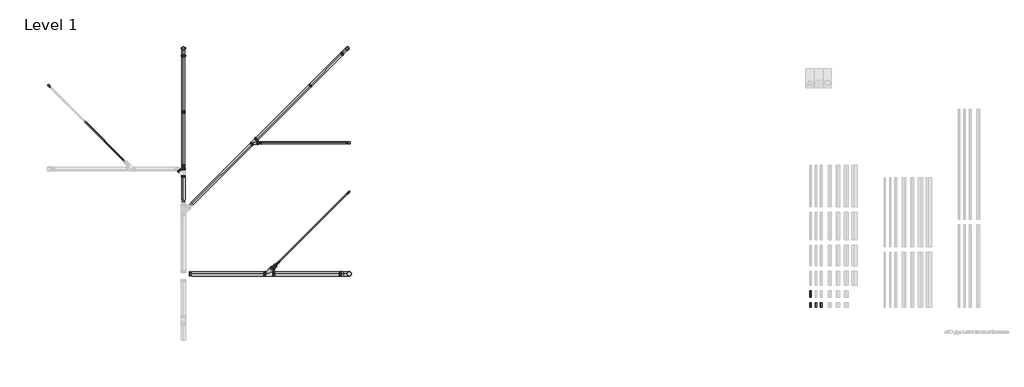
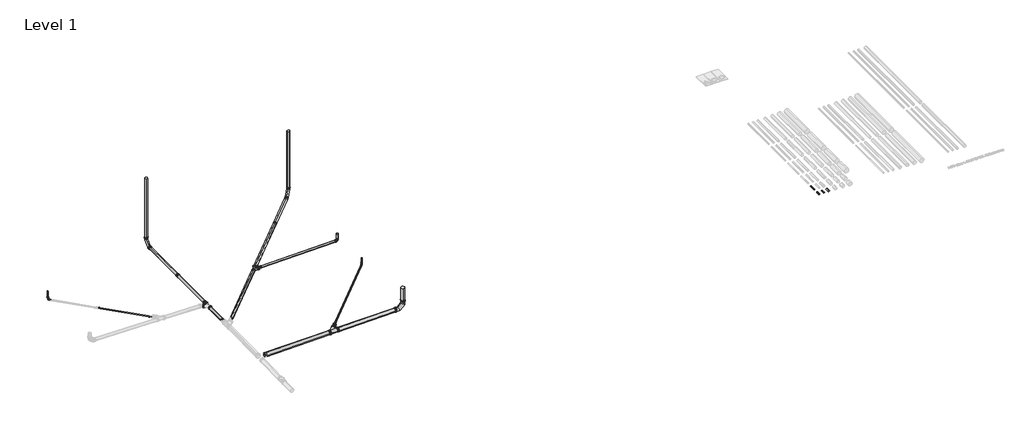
# One storey, part 5 of 13: 54 pipe fittings, 21 pipe segments.
"""IFC4 building model written with IfcOpenShell, lengths in millimetres."""

from ifc_helpers import new_model, si_unit, point, frame, frame_2d, origin, place, context, project, spatial, circle_curve, trimmed, segment, composite_curve, outline, extrude, transform, mapped, element, save
from components import pipe_fitting_1_4404_a287a520, pipe_fitting_1_4404_a61b8bae, pipe_fitting_1_4404_3284edd7, pipe_fitting_1_4404_78f4e6b2, pipe_fitting_1_4404_e9e6778f, pipe_fitting_1_4404_7859ca27, pipe_fitting_1_4404_a0c9185b, pipe_fitting_1_4404_cceba5ae, pipe_fitting_1_4404_6c9c62c8, pipe_fitting_1_4404_ad30eb08, std_4d603621, std_1d744fe9, std_53fa1e38, std_d175c92f, std_a04eb2e2, std_nested_8c5ec0dd, std_nested_c2194d23, std_nested_1dc62a2a, std_nested_ad07eb86, std_nested_c800a1cb, std_nested_79b518f9, std_nested_072c2150, std_nested_70f44cd0, std_nested_4988e8d9, std_nested_b4e13f09, std_nested_af07ce19, std_nested_5f98b4e1, std_nested_4c693b00, std_nested_44e87db9, std_nested_c85e2763, std_nested_0eafc151, std_nested_4f3602ba, std_nested_ec74517b, std_nested_c6c84c1b, std_nested_8d97be52

model = new_model("IFC4")

# Units and contexts
model_context = context("Model", 3, world=origin())
ifc_project = project(units=[si_unit("LENGTHUNIT", "METRE", prefix="MILLI")], contexts=[model_context])

# Site, building, storey
site = spatial("IfcSite", under=ifc_project)
building = spatial("IfcBuilding", under=site)
storey = spatial("IfcBuildingStorey", under=building, Name="Level 1", Elevation=0.0)

# Pipe fittings
placement = place(None, origin())
pipe_fitting_1_4404_shape = pipe_fitting_1_4404_a287a520(model_context)
element("IfcPipeFitting", 1, ObjectType="PIF_ST_UN_ACO pipe double bend_ACO : 1.4404", at=placement, inside=storey, context=model_context, shape_type="MappedRepresentation", body=[
    mapped(pipe_fitting_1_4404_shape, transform((-29368.6615244, 8045.8349965, 136.9828864), x_axis=(0.0, 0.0, -1.0), y_axis=(0.7071067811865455, -0.7071067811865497, 0.0), z_axis=(-0.7071067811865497, -0.7071067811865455, 0.0))),
])
pipe_fitting_1_4404_2_shape = pipe_fitting_1_4404_a61b8bae(model_context)
element("IfcPipeFitting", 2, ObjectType="PIF_ST_UN_ACO pipe double bend_ACO : 1.4404", at=placement, inside=storey, context=model_context, shape_type="MappedRepresentation", body=[
    mapped(pipe_fitting_1_4404_2_shape, transform((-18439.7731339, 4176.3172962, 197.0535129), x_axis=(0.0, 0.0, -1.0), y_axis=(-0.7071067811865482, -0.7071067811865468, 0.0), z_axis=(-0.7071067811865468, 0.7071067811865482, 0.0))),
])
pipe_fitting_1_4404_3_shape = pipe_fitting_1_4404_3284edd7(model_context)
element("IfcPipeFitting", 3, ObjectType="PIF_ST_UN_ACO pipe long bend_ACO : 1.4404", at=placement, inside=storey, context=model_context, shape_type="MappedRepresentation", body=[
    mapped(pipe_fitting_1_4404_3_shape, transform((-18505.2897132, 9386.7440181, 204.2019308), x_axis=(0.0, 0.0, -1.0), y_axis=(-0.7071067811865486, -0.7071067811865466, 0.0), z_axis=(-0.7071067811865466, 0.7071067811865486, 0.0))),
])
pipe_fitting_1_4404_4_shape = pipe_fitting_1_4404_78f4e6b2(model_context)
element("IfcPipeFitting", 4, ObjectType="PIF_ST_UN_ACO pipe long bend_ACO : 1.4404", at=placement, inside=storey, context=model_context, shape_type="MappedRepresentation", body=[
    mapped(pipe_fitting_1_4404_4_shape, transform((-24468.5517039, 9386.7041561, 70.403708), x_axis=(0.0, 0.0, -1.0), y_axis=(0.0, -1.0, 0.0), z_axis=(-1.0, 0.0, 0.0))),
])
pipe_fitting_1_4404_5_shape = pipe_fitting_1_4404_e9e6778f(model_context)
element("IfcPipeFitting", 5, ObjectType="PIF_ST_UN_ACO pipe long bend_ACO : 1.4404", at=placement, inside=storey, context=model_context, shape_type="MappedRepresentation", body=[
    mapped(pipe_fitting_1_4404_5_shape, transform((-18439.5447073, 1191.2457969, 126.5032296), x_axis=(0.9998875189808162, 0.0, 0.014998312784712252), y_axis=(-0.014998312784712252, 0.0, 0.9998875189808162), z_axis=(0.0, -1.0, 0.0))),
])
pipe_fitting_1_4404_6_shape = pipe_fitting_1_4404_7859ca27(model_context)
element("IfcPipeFitting", 6, ObjectType="PIF_ST_UN_ACO pipe multibranch_ACO : 1.4404", at=placement, inside=storey, context=model_context, shape_type="MappedRepresentation", body=[
    mapped(pipe_fitting_1_4404_6_shape, transform((-21939.6710013, 5952.3627299, 131.3477019), x_axis=(0.7070272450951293, 0.7070272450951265, 0.01499831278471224), y_axis=(0.7070272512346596, -0.7071590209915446, 0.0062116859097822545), z_axis=(0.014998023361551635, 0.006212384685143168, -0.9998682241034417))),
])
pipe_fitting_1_4404_7_shape = pipe_fitting_1_4404_a0c9185b(model_context)
element("IfcPipeFitting", 7, ObjectType="PIF_ST_UN_ACO pipe multibranch_ACO : 1.4404", at=placement, inside=storey, context=model_context, shape_type="MappedRepresentation", body=[
    mapped(pipe_fitting_1_4404_7_shape, transform((-21424.38778, 1191.2457969, 81.7305835), x_axis=(0.9998875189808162, 0.0, 0.014998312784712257), y_axis=(-9.317528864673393e-05, 0.999980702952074, 0.006211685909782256), z_axis=(-0.014998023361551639, -0.006212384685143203, 0.9998682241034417))),
])
pipe_fitting_1_4404_8_shape = pipe_fitting_1_4404_cceba5ae(model_context)
element("IfcPipeFitting", 8, ObjectType="PIF_ST_UN_ACO pipe multireducer_ACO : 1.4404", at=placement, inside=storey, context=model_context, shape_type="MappedRepresentation", body=[
    mapped(pipe_fitting_1_4404_8_shape, transform((-24468.5517039, 5032.9655847, 69.8540739), x_axis=(0.0, 0.9999613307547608, 0.008794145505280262), y_axis=(-0.014997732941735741, 0.008793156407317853, -0.9998488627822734), z_axis=(-0.9998875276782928, -0.00013189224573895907, 0.014997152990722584))),
])
pipe_fitting_1_4404_9_shape = pipe_fitting_1_4404_6c9c62c8(model_context)
element("IfcPipeFitting", 9, ObjectType="PIF_ST_UN_ACO pipe repair coupling_ACO : 1.4404", at=placement, inside=storey, context=model_context, shape_type="MappedRepresentation", body=[
    mapped(pipe_fitting_1_4404_9_shape, transform((-24468.5517039, 7070.7041561, 70.403708), x_axis=(0.0, -1.0, 0.0), y_axis=(1.0, 0.0, 0.0), z_axis=(0.0, 0.0, 1.0))),
])
pipe_fitting_1_4404_10_shape = pipe_fitting_1_4404_ad30eb08(model_context)
element("IfcPipeFitting", 10, ObjectType="PIF_ST_UN_ACO pipe bend_ACO : 1.4404", at=placement, inside=storey, context=model_context, shape_type="MappedRepresentation", body=[
    mapped(pipe_fitting_1_4404_10_shape, transform((-18439.5447073, 5952.2695442, 198.8509942), x_axis=(0.0, 0.0, -1.0), y_axis=(-1.0, 0.0, 0.0), z_axis=(0.0, 1.0, 0.0))),
])
std_shape = std_4d603621(model_context)
element("IfcPipeFitting", 11, ObjectType="ZZZ_do not use_PIF_ST_UN_ACO pipe increaser coupling_ACO : std", at=placement, inside=storey, context=model_context, shape_type="MappedRepresentation", body=[
    mapped(std_shape, transform((-21735.6939474, 5952.3627299, 134.4073577), x_axis=(0.9998875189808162, 0.0, 0.014998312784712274), y_axis=(9.317528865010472e-05, -0.999980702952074, -0.00621168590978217), z_axis=(0.014998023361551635, 0.006212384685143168, -0.9998682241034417))),
])
std_2_shape = std_1d744fe9(model_context)
element("IfcPipeFitting", 12, ObjectType="ZZZ_do not use_PIF_ST_UN_ACO pipe increaser coupling_ACO : std", at=placement, inside=storey, context=model_context, shape_type="MappedRepresentation", body=[
    mapped(std_2_shape, transform((-21115.7468304, 1500.0800305, 110.2819471), x_axis=(0.7070272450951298, 0.707027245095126, 0.014998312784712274), y_axis=(-0.7070272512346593, 0.7071590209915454, -0.006211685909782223), z_axis=(-0.014998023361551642, -0.006212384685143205, 0.9998682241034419))),
])
std_3_shape = std_53fa1e38(model_context)
element("IfcPipeFitting", 13, ObjectType="ZZZ_do not use_PIF_ST_UN_ACO pipe increaser coupling_ACO : std", at=placement, inside=storey, context=model_context, shape_type="MappedRepresentation", body=[
    mapped(std_3_shape, transform((-21210.865552, 1404.7680249, 86.2600739), x_axis=(0.7070272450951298, 0.707027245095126, 0.014998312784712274), y_axis=(-0.7070272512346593, 0.7071590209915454, -0.006211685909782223), z_axis=(-0.014998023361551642, -0.006212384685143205, 0.9998682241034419))),
])
std_4_shape = std_d175c92f(model_context)
element("IfcPipeFitting", 14, ObjectType="ZZZ_do not use_PIF_ST_UN_ACO pipe increaser coupling_ACO : std", at=placement, inside=storey, context=model_context, shape_type="MappedRepresentation", body=[
    mapped(std_4_shape, transform((-21047.1866246, 1568.8598773, 136.7409882), x_axis=(0.7070272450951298, 0.707027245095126, 0.014998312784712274), y_axis=(-0.7070272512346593, 0.7071590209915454, -0.006211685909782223), z_axis=(-0.014998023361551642, -0.006212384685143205, 0.9998682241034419))),
])
std_5_shape = std_a04eb2e2(model_context)
element("IfcPipeFitting", 15, ObjectType="ZZZ_do not use_PIF_ST_UN_ACO pipe increaser coupling_ACO : std", at=placement, inside=storey, context=model_context, shape_type="MappedRepresentation", body=[
    mapped(std_5_shape, transform((-24468.5517039, 5032.9655847, 69.8540739), x_axis=(0.0, 0.9999613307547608, 0.008794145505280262), y_axis=(-0.014997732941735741, 0.008793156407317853, -0.9998488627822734), z_axis=(-0.9998875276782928, -0.00013189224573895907, 0.014997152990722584))),
])
std_nested_shape = std_nested_8c5ec0dd(model_context)
element("IfcPipeFitting", 16, ObjectType="ZZZ_do not use_PIF_ST_UN_ACO pipe bend_ACO : std (nested)", at=placement, inside=storey, context=model_context, shape_type="MappedRepresentation", body=[
    mapped(std_nested_shape, transform((-29325.9852063, 8003.1586784, 136.077585), x_axis=(0.4962362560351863, -0.4962362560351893, -0.7123897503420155), y_axis=(0.5037356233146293, -0.5037356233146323, 0.7017840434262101), z_axis=(-0.7071067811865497, -0.7071067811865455, 0.0))),
])
element("IfcPipeFitting", 17, ObjectType="ZZZ_do not use_PIF_ST_UN_ACO pipe bend_ACO : std (nested)", at=placement, inside=storey, context=model_context, shape_type="MappedRepresentation", body=[
    mapped(std_nested_shape, transform((-29368.6615244, 8045.8349965, 197.3431035), x_axis=(0.0, 0.0, -1.0), y_axis=(0.7071067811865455, -0.7071067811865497, 0.0), z_axis=(-0.7071067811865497, -0.7071067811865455, 0.0))),
])
std_nested_2_shape = std_nested_c2194d23(model_context)
element("IfcPipeFitting", 18, ObjectType="ZZZ_do not use_PIF_ST_UN_ACO pipe bend_ACO : std (nested)", at=placement, inside=storey, context=model_context, shape_type="MappedRepresentation", body=[
    mapped(std_nested_2_shape, transform((-18478.9757981, 4137.114632, 196.2218988), x_axis=(-0.49623625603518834, -0.4962362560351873, -0.7123897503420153), y_axis=(-0.5037356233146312, -0.5037356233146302, 0.7017840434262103), z_axis=(-0.7071067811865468, 0.7071067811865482, 0.0))),
])
element("IfcPipeFitting", 19, ObjectType="ZZZ_do not use_PIF_ST_UN_ACO pipe bend_ACO : std (nested)", at=placement, inside=storey, context=model_context, shape_type="MappedRepresentation", body=[
    mapped(std_nested_2_shape, transform((-18439.7731339, 4176.3172962, 252.5006891), x_axis=(0.0, 0.0, -1.0), y_axis=(-0.7071067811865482, -0.7071067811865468, 0.0), z_axis=(-0.7071067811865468, 0.7071067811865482, 0.0))),
])
std_nested_3_shape = std_nested_1dc62a2a(model_context)
element("IfcPipeFitting", 20, ObjectType="ZZZ_do not use_PIF_ST_UN_ACO pipe branch_ACO : std (nested)", at=placement, inside=storey, context=model_context, shape_type="MappedRepresentation", body=[
    mapped(std_nested_3_shape, transform((-21939.6710013, 5952.3627299, 131.3477019), x_axis=(0.7070272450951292, 0.7070272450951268, 0.014998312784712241), y_axis=(0.7070272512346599, -0.7071590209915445, 0.0062116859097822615), z_axis=(0.014998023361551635, 0.006212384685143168, -0.9998682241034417))),
])
std_nested_4_shape = std_nested_ad07eb86(model_context)
element("IfcPipeFitting", 21, ObjectType="ZZZ_do not use_PIF_ST_UN_ACO pipe branch_ACO : std (nested)", at=placement, inside=storey, context=model_context, shape_type="MappedRepresentation", body=[
    mapped(std_nested_4_shape, transform((-21424.38778, 1191.2457969, 81.7305835), x_axis=(0.9998875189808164, 0.0, 0.014998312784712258), y_axis=(-9.317528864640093e-05, 0.9999807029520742, 0.006211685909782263), z_axis=(-0.014998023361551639, -0.006212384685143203, 0.9998682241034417))),
])
std_nested_5_shape = std_nested_c800a1cb(model_context)
element("IfcPipeFitting", 22, ObjectType="ZZZ_do not use_PIF_ST_UN_ACO pipe multireducer_ACO : std (nested)", at=placement, inside=storey, context=model_context, shape_type="MappedRepresentation", body=[
    mapped(std_nested_5_shape, transform((-21735.6939474, 5952.3627299, 134.4073577), x_axis=(0.9998875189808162, 0.0, 0.014998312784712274), y_axis=(9.317528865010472e-05, -0.999980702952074, -0.00621168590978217), z_axis=(0.014998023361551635, 0.006212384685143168, -0.9998682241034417))),
])
std_nested_6_shape = std_nested_79b518f9(model_context)
element("IfcPipeFitting", 23, ObjectType="ZZZ_do not use_PIF_ST_UN_ACO pipe multireducer_ACO : std (nested)", at=placement, inside=storey, context=model_context, shape_type="MappedRepresentation", body=[
    mapped(std_nested_6_shape, transform((-21141.9303956, 1473.7031813, 87.7224094), x_axis=(0.7070272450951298, 0.707027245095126, 0.014998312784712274), y_axis=(-0.7070272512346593, 0.7071590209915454, -0.006211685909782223), z_axis=(-0.014998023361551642, -0.006212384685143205, 0.9998682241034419))),
])
std_nested_7_shape = std_nested_072c2150(model_context)
element("IfcPipeFitting", 24, ObjectType="ZZZ_do not use_PIF_ST_UN_ACO pipe socket_ACO : std (nested)", at=placement, inside=storey, context=model_context, shape_type="MappedRepresentation", body=[
    mapped(std_nested_7_shape, transform((-29337.8948765, 8015.0683486, 153.174939), x_axis=(-0.4962362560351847, 0.4962362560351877, 0.7123897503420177), y_axis=(-0.5037356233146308, 0.5037356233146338, -0.7017840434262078), z_axis=(-0.7071067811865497, -0.7071067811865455, 0.0))),
])
element("IfcPipeFitting", 25, ObjectType="ZZZ_do not use_PIF_ST_UN_ACO pipe socket_ACO : std (nested)", at=placement, inside=storey, context=model_context, shape_type="MappedRepresentation", body=[
    mapped(std_nested_7_shape, transform((-29368.6615244, 8045.8349965, 221.3431035), x_axis=(0.0, 0.0, 1.0), y_axis=(-0.7071067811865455, 0.7071067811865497, 0.0), z_axis=(-0.7071067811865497, -0.7071067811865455, 0.0))),
])
element("IfcPipeFitting", 26, ObjectType="ZZZ_do not use_PIF_ST_UN_ACO pipe socket_ACO : std (nested)", at=placement, inside=storey, context=model_context, shape_type="MappedRepresentation", body=[
    mapped(std_nested_7_shape, transform((-21077.2352825, 1538.8112194, 136.1035599), x_axis=(0.7070272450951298, 0.707027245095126, 0.014998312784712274), y_axis=(-0.7070272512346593, 0.7071590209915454, -0.006211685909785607), z_axis=(-0.014998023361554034, -0.006212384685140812, 0.9998682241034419))),
])
std_nested_8_shape = std_nested_70f44cd0(model_context)
element("IfcPipeFitting", 27, ObjectType="ZZZ_do not use_PIF_ST_UN_ACO pipe socket_ACO : std (nested)", at=placement, inside=storey, context=model_context, shape_type="MappedRepresentation", body=[
    mapped(std_nested_8_shape, transform((-21543.3743948, 1191.2457969, 79.9457842), x_axis=(-0.9998875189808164, 0.0, -0.01499831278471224), y_axis=(9.317528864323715e-05, -0.9999807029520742, -0.006211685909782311), z_axis=(-0.014998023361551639, -0.006212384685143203, 0.9998682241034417))),
])
std_nested_9_shape = std_nested_4988e8d9(model_context)
element("IfcPipeFitting", 28, ObjectType="ZZZ_do not use_PIF_ST_UN_ACO pipe socket_ACO : std (nested)", at=placement, inside=storey, context=model_context, shape_type="MappedRepresentation", body=[
    mapped(std_nested_9_shape, transform((-21211.4117385, 1191.2457969, 84.9252241), x_axis=(0.9998875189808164, 0.0, 0.014998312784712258), y_axis=(-9.317528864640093e-05, 0.9999807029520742, 0.006211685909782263), z_axis=(-0.014998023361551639, -0.006212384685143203, 0.9998682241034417))),
])
element("IfcPipeFitting", 29, ObjectType="ZZZ_do not use_PIF_ST_UN_ACO pipe socket_ACO : std (nested)", at=placement, inside=storey, context=model_context, shape_type="MappedRepresentation", body=[
    mapped(std_nested_9_shape, transform((-21267.4277316, 1348.2058453, 85.0602089), x_axis=(0.7070272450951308, 0.7070272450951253, 0.014998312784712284), y_axis=(-0.7070272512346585, 0.7071590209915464, -0.006211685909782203), z_axis=(-0.014998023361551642, -0.006212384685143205, 0.9998682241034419))),
])
std_nested_10_shape = std_nested_b4e13f09(model_context)
element("IfcPipeFitting", 30, ObjectType="ZZZ_do not use_PIF_ST_UN_ACO pipe socket_ACO : std (nested)", at=placement, inside=storey, context=model_context, shape_type="MappedRepresentation", body=[
    mapped(std_nested_10_shape, transform((-18728.7103226, 9163.3234086, 199.462464), x_axis=(-0.7070272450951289, -0.7070272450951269, -0.014998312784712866), y_axis=(-0.010605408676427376, -0.010605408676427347, 0.9998875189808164), z_axis=(-0.7071067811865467, 0.7071067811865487, 0.0))),
])
std_nested_11_shape = std_nested_af07ce19(model_context)
element("IfcPipeFitting", 31, ObjectType="ZZZ_do not use_PIF_ST_UN_ACO pipe socket_ACO : std (nested)", at=placement, inside=storey, context=model_context, shape_type="MappedRepresentation", body=[
    mapped(std_nested_11_shape, transform((-18505.2897132, 9386.7440181, 450.2019308), x_axis=(0.0, 0.0, 1.0), y_axis=(0.7071067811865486, 0.7071067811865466, 0.0), z_axis=(-0.7071067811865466, 0.7071067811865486, 0.0))),
])
element("IfcPipeFitting", 32, ObjectType="ZZZ_do not use_PIF_ST_UN_ACO pipe socket_ACO : std (nested)", at=placement, inside=storey, context=model_context, shape_type="MappedRepresentation", body=[
    mapped(std_nested_10_shape, transform((-24468.5517039, 9070.7041561, 70.403708), x_axis=(0.0, -1.0, 0.0), y_axis=(0.0, 0.0, 1.0), z_axis=(-1.0, 0.0, 0.0))),
])
element("IfcPipeFitting", 33, ObjectType="ZZZ_do not use_PIF_ST_UN_ACO pipe socket_ACO : std (nested)", at=placement, inside=storey, context=model_context, shape_type="MappedRepresentation", body=[
    mapped(std_nested_11_shape, transform((-24468.5517039, 9386.7041561, 316.403708), x_axis=(0.0, 0.0, 1.0), y_axis=(0.0, 1.0, 0.0), z_axis=(-1.0, 0.0, 0.0))),
])
std_nested_12_shape = std_nested_5f98b4e1(model_context)
element("IfcPipeFitting", 34, ObjectType="ZZZ_do not use_PIF_ST_UN_ACO pipe socket_ACO : std (nested)", at=placement, inside=storey, context=model_context, shape_type="MappedRepresentation", body=[
    mapped(std_nested_12_shape, transform((-18546.5326718, 5952.2695442, 197.2461747), x_axis=(-0.9998875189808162, 0.0, -0.014998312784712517), y_axis=(-0.01499831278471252, 0.0, 0.9998875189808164), z_axis=(0.0, 1.0000000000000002, 0.0))),
])
std_nested_13_shape = std_nested_4c693b00(model_context)
element("IfcPipeFitting", 35, ObjectType="ZZZ_do not use_PIF_ST_UN_ACO pipe socket_ACO : std (nested)", at=placement, inside=storey, context=model_context, shape_type="MappedRepresentation", body=[
    mapped(std_nested_13_shape, transform((-21680.9251042, 5952.2695442, 150.2302882), x_axis=(0.9998875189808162, 0.0, 0.014998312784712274), y_axis=(9.317528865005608e-05, -0.999980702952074, -0.006211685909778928), z_axis=(0.014998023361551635, 0.006212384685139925, -0.9998682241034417))),
])
element("IfcPipeFitting", 36, ObjectType="ZZZ_do not use_PIF_ST_UN_ACO pipe socket_ACO : std (nested)", at=placement, inside=storey, context=model_context, shape_type="MappedRepresentation", body=[
    mapped(std_nested_13_shape, transform((-18439.5447073, 5952.2695442, 251.8509942), x_axis=(0.0, 0.0, 1.0), y_axis=(1.0, 0.0, 0.0), z_axis=(0.0, 1.0, 0.0))),
])
std_nested_14_shape = std_nested_44e87db9(model_context)
element("IfcPipeFitting", 37, ObjectType="ZZZ_do not use_PIF_ST_UN_ACO pipe socket_ACO : std (nested)", at=placement, inside=storey, context=model_context, shape_type="MappedRepresentation", body=[
    mapped(std_nested_14_shape, transform((-18519.9833784, 4096.1070517, 195.3519967), x_axis=(-0.7070272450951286, -0.7070272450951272, -0.014998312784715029), y_axis=(-0.01060540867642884, -0.010605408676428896, 0.9998875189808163), z_axis=(-0.7071067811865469, 0.7071067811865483, 0.0))),
])
std_nested_15_shape = std_nested_c85e2763(model_context)
element("IfcPipeFitting", 38, ObjectType="ZZZ_do not use_PIF_ST_UN_ACO pipe socket_ACO : std (nested)", at=placement, inside=storey, context=model_context, shape_type="MappedRepresentation", body=[
    mapped(std_nested_15_shape, transform((-18468.5548368, 4147.5355933, 211.1820836), x_axis=(0.49623625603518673, 0.4962362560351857, 0.7123897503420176), y_axis=(0.5037356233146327, 0.5037356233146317, -0.7017840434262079), z_axis=(-0.7071067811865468, 0.7071067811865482, 0.0))),
])
element("IfcPipeFitting", 39, ObjectType="ZZZ_do not use_PIF_ST_UN_ACO pipe socket_ACO : std (nested)", at=placement, inside=storey, context=model_context, shape_type="MappedRepresentation", body=[
    mapped(std_nested_15_shape, transform((-18439.7731339, 4176.3172962, 273.5006891), x_axis=(0.0, 0.0, 1.0), y_axis=(0.7071067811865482, 0.7071067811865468, 0.0), z_axis=(-0.7071067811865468, 0.7071067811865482, 0.0))),
])
element("IfcPipeFitting", 40, ObjectType="ZZZ_do not use_PIF_ST_UN_ACO pipe socket_ACO : std (nested)", at=placement, inside=storey, context=model_context, shape_type="MappedRepresentation", body=[
    mapped(std_nested_15_shape, transform((-21017.2129568, 1598.8774733, 142.3777576), x_axis=(0.7070272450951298, 0.707027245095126, 0.014998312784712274), y_axis=(-0.7070272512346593, 0.7071590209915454, -0.0062116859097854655), z_axis=(-0.014998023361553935, -0.0062123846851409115, 0.9998682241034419))),
])
element("IfcPipeFitting", 41, ObjectType="ZZZ_do not use_PIF_ST_UN_ACO pipe socket_ACO : std (nested)", at=placement, inside=storey, context=model_context, shape_type="MappedRepresentation", body=[
    mapped(std_nested_11_shape, transform((-21837.1520507, 6054.8816805, 133.5224572), x_axis=(0.7070272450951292, 0.7070272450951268, 0.014998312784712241), y_axis=(0.7070272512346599, -0.7071590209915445, 0.0062116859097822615), z_axis=(0.014998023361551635, 0.006212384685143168, -0.9998682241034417))),
])
element("IfcPipeFitting", 42, ObjectType="ZZZ_do not use_PIF_ST_UN_ACO pipe socket_ACO : std (nested)", at=placement, inside=storey, context=model_context, shape_type="MappedRepresentation", body=[
    mapped(std_nested_11_shape, transform((-21790.687761, 5952.3627299, 133.5824505), x_axis=(0.9998875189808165, 0.0, 0.014998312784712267), y_axis=(9.317528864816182e-05, -0.9999807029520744, -0.0062116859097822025), z_axis=(0.014998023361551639, 0.00621238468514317, -0.9998682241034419))),
])
element("IfcPipeFitting", 43, ObjectType="ZZZ_do not use_PIF_ST_UN_ACO pipe socket_ACO : std (nested)", at=placement, inside=storey, context=model_context, shape_type="MappedRepresentation", body=[
    mapped(std_nested_11_shape, transform((-21154.6333289, 1461.193532, 109.4570399), x_axis=(0.7070272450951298, 0.707027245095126, 0.014998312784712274), y_axis=(-0.7070272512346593, 0.7071590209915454, -0.006211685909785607), z_axis=(-0.014998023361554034, -0.006212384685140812, 0.9998682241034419))),
])
element("IfcPipeFitting", 44, ObjectType="ZZZ_do not use_PIF_ST_UN_ACO pipe socket_ACO : std (nested)", at=placement, inside=storey, context=model_context, shape_type="MappedRepresentation", body=[
    mapped(std_nested_10_shape, transform((-22001.8893988, 5890.1443324, 130.0278503), x_axis=(-0.7070272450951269, -0.707027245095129, -0.014998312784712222), y_axis=(-0.7070272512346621, 0.7071590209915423, -0.006211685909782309), z_axis=(0.014998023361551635, 0.006212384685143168, -0.9998682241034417))),
])
element("IfcPipeFitting", 45, ObjectType="ZZZ_do not use_PIF_ST_UN_ACO pipe socket_ACO : std (nested)", at=placement, inside=storey, context=model_context, shape_type="MappedRepresentation", body=[
    mapped(std_nested_10_shape, transform((-19875.6167181, 8016.4170131, 175.1329053), x_axis=(-0.707027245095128, -0.7070272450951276, -0.014998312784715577), y_axis=(-0.014998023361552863, -0.006212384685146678, 0.9998682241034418), z_axis=(-0.7070272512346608, 0.7071590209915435, -0.006211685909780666))),
])
std_nested_16_shape = std_nested_0eafc151(model_context)
element("IfcPipeFitting", 46, ObjectType="ZZZ_do not use_PIF_ST_UN_ACO pipe socket_ACO : std (nested)", at=placement, inside=storey, context=model_context, shape_type="MappedRepresentation", body=[
    mapped(std_nested_16_shape, transform((-24468.5517039, 4970.4680015, 69.3044398), x_axis=(0.0, 0.999961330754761, 0.008794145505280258), y_axis=(-0.9998875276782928, -0.0001318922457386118, 0.014997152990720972), z_axis=(0.014997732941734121, -0.008793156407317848, 0.999848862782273))),
])
element("IfcPipeFitting", 47, ObjectType="ZZZ_do not use_PIF_ST_UN_ACO pipe socket_ACO : std (nested)", at=placement, inside=storey, context=model_context, shape_type="MappedRepresentation", body=[
    mapped(std_nested_16_shape, transform((-24588.7384096, 4920.6701532, 70.6692939), x_axis=(-0.706980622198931, 0.7070328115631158, 0.016822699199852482), y_axis=(-0.7070738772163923, -0.7071260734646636, 0.004387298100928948), z_axis=(0.014997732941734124, -0.00879315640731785, 0.9998488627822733))),
])
std_nested_17_shape = std_nested_4f3602ba(model_context)
element("IfcPipeFitting", 48, ObjectType="ZZZ_do not use_PIF_ST_UN_ACO pipe socket_ACO : std (nested)", at=placement, inside=storey, context=model_context, shape_type="MappedRepresentation", body=[
    mapped(std_nested_17_shape, transform((-24468.5517039, 4697.4785582, 66.9036381), x_axis=(0.0, -0.999961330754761, -0.008794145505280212), y_axis=(0.9998875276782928, 0.0001318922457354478, -0.014997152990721), z_axis=(0.014997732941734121, -0.008793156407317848, 0.999848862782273))),
])
std_nested_18_shape = std_nested_ec74517b(model_context)
element("IfcPipeFitting", 49, ObjectType="ZZZ_do not use_PIF_ST_UN_ACO pipe socket_ACO : std (nested)", at=placement, inside=storey, context=model_context, shape_type="MappedRepresentation", body=[
    mapped(std_nested_18_shape, transform((-24468.5517039, 5095.4631678, 70.403708), x_axis=(0.0, 0.9999613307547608, 0.008794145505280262), y_axis=(-0.014997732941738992, 0.008793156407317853, -0.9998488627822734), z_axis=(-0.9998875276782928, -0.00013189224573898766, 0.014997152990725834))),
])
element("IfcPipeFitting", 50, ObjectType="ZZZ_do not use_PIF_ST_UN_ACO pipe socket_ACO : std (nested)", at=placement, inside=storey, context=model_context, shape_type="MappedRepresentation", body=[
    mapped(std_nested_9_shape, transform((-18439.5447073, 1191.2457969, 396.5032296), x_axis=(0.0, 0.0, 1.0000000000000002), y_axis=(-1.0000000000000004, 0.0, 0.0), z_axis=(0.0, -1.0000000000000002, 0.0))),
])
element("IfcPipeFitting", 51, ObjectType="ZZZ_do not use_PIF_ST_UN_ACO pipe socket_ACO : std (nested)", at=placement, inside=storey, context=model_context, shape_type="MappedRepresentation", body=[
    mapped(std_nested_8_shape, transform((-18799.5042141, 1191.2457969, 121.103837), x_axis=(-0.9998875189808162, 0.0, -0.01499831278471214), y_axis=(0.01499831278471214, 0.0, -0.9998875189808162), z_axis=(0.0, -1.0, 0.0))),
])
std_nested_19_shape = std_nested_c6c84c1b(model_context)
element("IfcPipeFitting", 52, ObjectType="ZZZ_do not use_PIF_ST_UN_ACO pipe socket clamp_ACO : std (nested)", at=placement, inside=storey, context=model_context, shape_type="MappedRepresentation", body=[
    mapped(std_nested_19_shape, transform((-21807.4569064, 6084.5768248, 134.1523863), x_axis=(0.7070272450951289, 0.707027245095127, 0.01499831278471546), y_axis=(-0.7070272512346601, 0.7071590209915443, -0.006211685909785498), z_axis=(-0.014998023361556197, -0.0062123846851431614, 0.9998682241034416))),
])
std_nested_20_shape = std_nested_8d97be52(model_context)
element("IfcPipeFitting", 53, ObjectType="ZZZ_do not use_PIF_ST_UN_ACO pipe socket clamp two parts_ACO : std (nested)", at=placement, inside=storey, context=model_context, shape_type="MappedRepresentation", body=[
    mapped(std_nested_20_shape, transform((-24468.5517039, 9112.7041561, 70.403708), x_axis=(0.0, 1.0, 0.0), y_axis=(-1.0, 0.0, 0.0), z_axis=(0.0, 0.0, 1.0))),
])
element("IfcPipeFitting", 54, ObjectType="ZZZ_do not use_PIF_ST_UN_ACO pipe socket clamp two parts_ACO : std (nested)", at=placement, inside=storey, context=model_context, shape_type="MappedRepresentation", body=[
    mapped(std_nested_20_shape, transform((-24468.5517039, 9386.7041561, 358.403708), x_axis=(0.0, 0.0, 1.0), y_axis=(-1.0, 0.0, 0.0), z_axis=(0.0, -1.0, 0.0))),
])

# Pipe segments
element("IfcPipeSegment", 55, ObjectType="ACO pipe 1.4301 OD (complex)", at=placement, inside=storey, context=model_context, shape_type="SweptSolid", body=[
    extrude(outline(composite_curve([segment(trimmed(circle_curve(frame_2d((0.0, -1678.2538939)), 20.0), [point((0.0, -1658.2538939))], [point((20.0, -1678.2538939))], False, "CARTESIAN"), True, "CONTINUOUS"), segment(trimmed(circle_curve(frame_2d((0.0, -1678.2538939)), 20.0), [point((20.0, -1678.2538939))], [point((0.0, -1698.2538939))], False, "CARTESIAN"), True, "CONTINUOUS"), segment(trimmed(circle_curve(frame_2d((0.0, -1678.2538939)), 20.0), [point((0.0, -1698.2538939))], [point((-20.0, -1678.2538939))], False, "CARTESIAN"), True, "CONTINUOUS"), segment(trimmed(circle_curve(frame_2d((0.0, -1678.2538939)), 20.0), [point((-20.0, -1678.2538939))], [point((0.0, -1658.2538939))], False, "CARTESIAN"), True, "CONTINUOUS")], self_intersect=False)), frame((0.0, -19.2114353, 0.0), z_axis=(0.0, 1.0, 0.0), x_axis=(0.0, 0.0, 1.0)), (0.0, 0.0, 1.0), 150.0),
])
element("IfcPipeSegment", 56, ObjectType="ACO pipe 1.4301 OD (complex)", at=placement, inside=storey, context=model_context, shape_type="SweptSolid", body=[
    extrude(outline(composite_curve([segment(trimmed(circle_curve(frame_2d((0.0, -1478.2538939)), 25.0), [point((0.0, -1453.2538939))], [point((25.0, -1478.2538939))], False, "CARTESIAN"), True, "CONTINUOUS"), segment(trimmed(circle_curve(frame_2d((0.0, -1478.2538939)), 25.0), [point((25.0, -1478.2538939))], [point((0.0, -1503.2538939))], False, "CARTESIAN"), True, "CONTINUOUS"), segment(trimmed(circle_curve(frame_2d((0.0, -1478.2538939)), 25.0), [point((0.0, -1503.2538939))], [point((-25.0, -1478.2538939))], False, "CARTESIAN"), True, "CONTINUOUS"), segment(trimmed(circle_curve(frame_2d((0.0, -1478.2538939)), 25.0), [point((-25.0, -1478.2538939))], [point((0.0, -1453.2538939))], False, "CARTESIAN"), True, "CONTINUOUS")], self_intersect=False)), frame((0.0, -19.2114353, 0.0), z_axis=(0.0, 1.0, 0.0), x_axis=(0.0, 0.0, 1.0)), (0.0, 0.0, 1.0), 150.0),
])
element("IfcPipeSegment", 57, ObjectType="ACO pipe 1.4301 OD (complex)", at=placement, inside=storey, context=model_context, shape_type="SweptSolid", body=[
    extrude(outline(composite_curve([segment(trimmed(circle_curve(frame_2d((0.0, -1278.2538939)), 37.5), [point((0.0, -1240.7538939))], [point((37.5, -1278.2538939))], False, "CARTESIAN"), True, "CONTINUOUS"), segment(trimmed(circle_curve(frame_2d((0.0, -1278.2538939)), 37.5), [point((37.5, -1278.2538939))], [point((0.0, -1315.7538939))], False, "CARTESIAN"), True, "CONTINUOUS"), segment(trimmed(circle_curve(frame_2d((0.0, -1278.2538939)), 37.5), [point((0.0, -1315.7538939))], [point((-37.5, -1278.2538939))], False, "CARTESIAN"), True, "CONTINUOUS"), segment(trimmed(circle_curve(frame_2d((0.0, -1278.2538939)), 37.5), [point((-37.5, -1278.2538939))], [point((0.0, -1240.7538939))], False, "CARTESIAN"), True, "CONTINUOUS")], self_intersect=False)), frame((0.0, -19.2114353, 0.0), z_axis=(0.0, 1.0, 0.0), x_axis=(0.0, 0.0, 1.0)), (0.0, 0.0, 1.0), 150.0),
])
element("IfcPipeSegment", 58, ObjectType="ACO pipe 1.4301 OD (complex)", at=placement, inside=storey, context=model_context, shape_type="SweptSolid", body=[
    extrude(outline(composite_curve([segment(trimmed(circle_curve(frame_2d((0.0, -1678.2538939)), 20.0), [point((0.0, -1658.2538939))], [point((20.0, -1678.2538939))], False, "CARTESIAN"), True, "CONTINUOUS"), segment(trimmed(circle_curve(frame_2d((0.0, -1678.2538939)), 20.0), [point((20.0, -1678.2538939))], [point((0.0, -1698.2538939))], False, "CARTESIAN"), True, "CONTINUOUS"), segment(trimmed(circle_curve(frame_2d((0.0, -1678.2538939)), 20.0), [point((0.0, -1698.2538939))], [point((-20.0, -1678.2538939))], False, "CARTESIAN"), True, "CONTINUOUS"), segment(trimmed(circle_curve(frame_2d((0.0, -1678.2538939)), 20.0), [point((-20.0, -1678.2538939))], [point((0.0, -1658.2538939))], False, "CARTESIAN"), True, "CONTINUOUS")], self_intersect=False)), frame((0.0, 330.7885647, 0.0), z_axis=(0.0, 1.0, 0.0), x_axis=(0.0, 0.0, 1.0)), (0.0, 0.0, 1.0), 250.0),
])
element("IfcPipeSegment", 59, ObjectType="ACO pipe 1.4404 OD (complex)", at=placement, inside=storey, context=model_context, shape_type="SweptSolid", body=[
    extrude(outline(composite_curve([segment(trimmed(circle_curve(frame_2d((0.0, 55.0)), 55.0), [point((54.993815, 54.1751856))], [point((-0.8248144, 0.006185))], False, "CARTESIAN"), True, "CONTINUOUS"), segment(trimmed(circle_curve(frame_2d((0.0, 55.0)), 55.0), [point((-0.8248144, 0.006185))], [point((-54.9938149, 55.8248145))], False, "CARTESIAN"), True, "CONTINUOUS"), segment(trimmed(circle_curve(frame_2d((0.0, 55.0)), 55.0), [point((-54.9938149, 55.8248145))], [point((0.8248145, 109.9938149))], False, "CARTESIAN"), True, "CONTINUOUS"), segment(trimmed(circle_curve(frame_2d((0.0, 55.0)), 55.0), [point((0.8248145, 109.9938149))], [point((54.993815, 54.1751856))], False, "CARTESIAN"), True, "CONTINUOUS")], self_intersect=False)), frame((-24198.7404764, 3692.1267911, 138.4132307), z_axis=(0.707027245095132, 0.7070272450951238, 0.014998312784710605), x_axis=(0.7071863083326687, -0.7068682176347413, -0.01499493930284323)), (0.0, 0.0, 1.0), 3107.1660856),
])
element("IfcPipeSegment", 60, ObjectType="ACO pipe 1.4404 OD (complex)", at=placement, inside=storey, context=model_context, shape_type="SweptSolid", body=[
    extrude(outline(composite_curve([segment(trimmed(circle_curve(frame_2d((0.0, 80.0)), 80.0), [point((0.0, 0.0))], [point((-80.0, 80.0))], False, "CARTESIAN"), True, "CONTINUOUS"), segment(trimmed(circle_curve(frame_2d((0.0, 80.0)), 80.0), [point((-80.0, 80.0))], [point((0.0, 160.0))], False, "CARTESIAN"), True, "CONTINUOUS"), segment(trimmed(circle_curve(frame_2d((0.0, 80.0)), 80.0), [point((0.0, 160.0))], [point((80.0, 80.0))], False, "CARTESIAN"), True, "CONTINUOUS"), segment(trimmed(circle_curve(frame_2d((0.0, 80.0)), 80.0), [point((80.0, 80.0))], [point((0.0, 0.0))], False, "CARTESIAN"), True, "CONTINUOUS")], self_intersect=False)), frame((-24245.0768434, 1111.2457969, 39.4202475), z_axis=(0.9998875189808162, 0.0, 0.014998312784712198), x_axis=(0.014998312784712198, 0.0, -0.9998875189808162)), (0.0, 0.0, 1.0), 2702.006373),
])
element("IfcPipeSegment", 61, ObjectType="ACO pipe 1.4404 OD (complex)", at=placement, inside=storey, context=model_context, shape_type="SweptSolid", body=[
    extrude(outline(composite_curve([segment(trimmed(circle_curve(frame_2d((-18505.2897132, 9386.7440181)), 55.0), [point((-18450.2897132, 9386.7440181))], [point((-18505.2897132, 9331.7440181))], False, "CARTESIAN"), True, "CONTINUOUS"), segment(trimmed(circle_curve(frame_2d((-18505.2897132, 9386.7440181)), 55.0), [point((-18505.2897132, 9331.7440181))], [point((-18560.2897132, 9386.7440181))], False, "CARTESIAN"), True, "CONTINUOUS"), segment(trimmed(circle_curve(frame_2d((-18505.2897132, 9386.7440181)), 55.0), [point((-18560.2897132, 9386.7440181))], [point((-18505.2897132, 9441.7440181))], False, "CARTESIAN"), True, "CONTINUOUS"), segment(trimmed(circle_curve(frame_2d((-18505.2897132, 9386.7440181)), 55.0), [point((-18505.2897132, 9441.7440181))], [point((-18450.2897132, 9386.7440181))], False, "CARTESIAN"), True, "CONTINUOUS")], self_intersect=False)), frame((0.0, 0.0, 450.2019308), z_axis=(0.0, 0.0, 1.0), x_axis=(1.0, 0.0, 0.0)), (0.0, 0.0, 1.0), 2549.7980692),
])
element("IfcPipeSegment", 62, ObjectType="ACO pipe 1.4404 OD (complex)", at=placement, inside=storey, context=model_context, shape_type="SweptSolid", body=[
    extrude(outline(composite_curve([segment(trimmed(circle_curve(frame_2d((0.0, -55.0)), 55.0), [point((-54.993815, -54.1751856))], [point((0.8248143, -0.0061851))], False, "CARTESIAN"), True, "CONTINUOUS"), segment(trimmed(circle_curve(frame_2d((0.0, -55.0)), 55.0), [point((0.8248143, -0.0061851))], [point((54.9938149, -55.8248145))], False, "CARTESIAN"), True, "CONTINUOUS"), segment(trimmed(circle_curve(frame_2d((0.0, -55.0)), 55.0), [point((54.9938149, -55.8248145))], [point((-0.8248145, -109.993815))], False, "CARTESIAN"), True, "CONTINUOUS"), segment(trimmed(circle_curve(frame_2d((0.0, -55.0)), 55.0), [point((-0.8248145, -109.993815))], [point((-54.993815, -54.1751856))], False, "CARTESIAN"), True, "CONTINUOUS")], self_intersect=False)), frame((-21837.1520507, 6056.0481442, 78.534828), z_axis=(0.707027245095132, 0.7070272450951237, 0.014998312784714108), x_axis=(0.7071863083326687, -0.7068682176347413, -0.01499493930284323)), (0.0, 0.0, 1.0), 2774.3419313),
])
element("IfcPipeSegment", 63, ObjectType="ACO pipe 1.4404 OD (complex)", at=placement, inside=storey, context=model_context, shape_type="SweptSolid", body=[
    extrude(outline(composite_curve([segment(trimmed(circle_curve(frame_2d((-24468.5517039, 9386.7041561)), 55.0), [point((-24413.5517039, 9386.7041561))], [point((-24468.5517039, 9331.7041561))], False, "CARTESIAN"), True, "CONTINUOUS"), segment(trimmed(circle_curve(frame_2d((-24468.5517039, 9386.7041561)), 55.0), [point((-24468.5517039, 9331.7041561))], [point((-24523.5517039, 9386.7041561))], False, "CARTESIAN"), True, "CONTINUOUS"), segment(trimmed(circle_curve(frame_2d((-24468.5517039, 9386.7041561)), 55.0), [point((-24523.5517039, 9386.7041561))], [point((-24468.5517039, 9441.7041561))], False, "CARTESIAN"), True, "CONTINUOUS"), segment(trimmed(circle_curve(frame_2d((-24468.5517039, 9386.7041561)), 55.0), [point((-24468.5517039, 9441.7041561))], [point((-24413.5517039, 9386.7041561))], False, "CARTESIAN"), True, "CONTINUOUS")], self_intersect=False)), frame((0.0, 0.0, 316.403708), z_axis=(0.0, 0.0, 1.0), x_axis=(1.0, 0.0, 0.0)), (0.0, 0.0, 1.0), 2683.596292),
])
element("IfcPipeSegment", 64, ObjectType="ACO pipe 1.4404 OD (complex)", at=placement, inside=storey, context=model_context, shape_type="SweptSolid", body=[
    extrude(outline(composite_curve([segment(trimmed(circle_curve(frame_2d((70.403708, -24468.5517039)), 55.0), [point((70.403708, -24523.5517039))], [point((15.403708, -24468.5517039))], False, "CARTESIAN"), True, "CONTINUOUS"), segment(trimmed(circle_curve(frame_2d((70.403708, -24468.5517039)), 55.0), [point((15.403708, -24468.5517039))], [point((70.403708, -24413.5517039))], False, "CARTESIAN"), True, "CONTINUOUS"), segment(trimmed(circle_curve(frame_2d((70.403708, -24468.5517039)), 55.0), [point((70.403708, -24413.5517039))], [point((125.403708, -24468.5517039))], False, "CARTESIAN"), True, "CONTINUOUS"), segment(trimmed(circle_curve(frame_2d((70.403708, -24468.5517039)), 55.0), [point((125.403708, -24468.5517039))], [point((70.403708, -24523.5517039))], False, "CARTESIAN"), True, "CONTINUOUS")], self_intersect=False)), frame((0.0, 5095.4631678, 0.0), z_axis=(0.0, 1.0, 0.0), x_axis=(0.0, 0.0, 1.0)), (0.0, 0.0, 1.0), 1975.2409883),
])
element("IfcPipeSegment", 65, ObjectType="ACO pipe 1.4404 OD (complex)", at=placement, inside=storey, context=model_context, shape_type="SweptSolid", body=[
    extrude(outline(composite_curve([segment(trimmed(circle_curve(frame_2d((-18439.5447073, 5952.2695442)), 37.5), [point((-18402.0447073, 5952.2695442))], [point((-18439.5447073, 5914.7695442))], False, "CARTESIAN"), True, "CONTINUOUS"), segment(trimmed(circle_curve(frame_2d((-18439.5447073, 5952.2695442)), 37.5), [point((-18439.5447073, 5914.7695442))], [point((-18477.0447073, 5952.2695442))], False, "CARTESIAN"), True, "CONTINUOUS"), segment(trimmed(circle_curve(frame_2d((-18439.5447073, 5952.2695442)), 37.5), [point((-18477.0447073, 5952.2695442))], [point((-18439.5447073, 5989.7695442))], False, "CARTESIAN"), True, "CONTINUOUS"), segment(trimmed(circle_curve(frame_2d((-18439.5447073, 5952.2695442)), 37.5), [point((-18439.5447073, 5989.7695442))], [point((-18402.0447073, 5952.2695442))], False, "CARTESIAN"), True, "CONTINUOUS")], self_intersect=False)), frame((0.0, 0.0, 251.8509942), z_axis=(0.0, 0.0, 1.0), x_axis=(1.0, 0.0, 0.0)), (0.0, 0.0, 1.0), 248.1490058),
])
element("IfcPipeSegment", 66, ObjectType="ACO pipe 1.4404 OD (complex)", at=placement, inside=storey, context=model_context, shape_type="SweptSolid", body=[
    extrude(outline(composite_curve([segment(trimmed(circle_curve(frame_2d((0.0, -37.5)), 37.5), [point((0.0, 0.0))], [point((37.4999999, -37.5))], False, "CARTESIAN"), True, "CONTINUOUS"), segment(trimmed(circle_curve(frame_2d((0.0, -37.5)), 37.5), [point((37.4999999, -37.5))], [point((0.0, -75.0))], False, "CARTESIAN"), True, "CONTINUOUS"), segment(trimmed(circle_curve(frame_2d((0.0, -37.5)), 37.5), [point((0.0, -75.0))], [point((-37.5, -37.5))], False, "CARTESIAN"), True, "CONTINUOUS"), segment(trimmed(circle_curve(frame_2d((0.0, -37.5)), 37.5), [point((-37.5, -37.5))], [point((0.0, 0.0))], False, "CARTESIAN"), True, "CONTINUOUS")], self_intersect=False)), frame((-21680.9251042, 5989.7695442, 150.2302882), z_axis=(0.9998875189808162, 0.0, 0.0149983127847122), x_axis=(0.0149983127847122, 0.0, -0.9998875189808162)), (0.0, 0.0, 1.0), 3134.7450317),
])
element("IfcPipeSegment", 67, ObjectType="ACO pipe 1.4404 OD (complex)", at=placement, inside=storey, context=model_context, shape_type="SweptSolid", body=[
    extrude(outline(composite_curve([segment(trimmed(circle_curve(frame_2d((-29368.6615244, 8045.8349965)), 25.0), [point((-29343.6615244, 8045.8349965))], [point((-29368.6615244, 8020.8349965))], False, "CARTESIAN"), True, "CONTINUOUS"), segment(trimmed(circle_curve(frame_2d((-29368.6615244, 8045.8349965)), 25.0), [point((-29368.6615244, 8020.8349965))], [point((-29393.6615244, 8045.8349965))], False, "CARTESIAN"), True, "CONTINUOUS"), segment(trimmed(circle_curve(frame_2d((-29368.6615244, 8045.8349965)), 25.0), [point((-29393.6615244, 8045.8349965))], [point((-29368.6615244, 8070.8349965))], False, "CARTESIAN"), True, "CONTINUOUS"), segment(trimmed(circle_curve(frame_2d((-29368.6615244, 8045.8349965)), 25.0), [point((-29368.6615244, 8070.8349965))], [point((-29343.6615244, 8045.8349965))], False, "CARTESIAN"), True, "CONTINUOUS")], self_intersect=False)), frame((0.0, 0.0, 221.3431035), z_axis=(0.0, 0.0, 1.0), x_axis=(1.0, 0.0, 0.0)), (0.0, 0.0, 1.0), 278.6568965),
])
element("IfcPipeSegment", 68, ObjectType="ACO pipe 1.4404 OD (complex)", at=placement, inside=storey, context=model_context, shape_type="SweptSolid", body=[
    extrude(outline(composite_curve([segment(trimmed(circle_curve(frame_2d((0.0, -25.0)), 25.0), [point((-24.9971886, -25.3749157))], [point((-0.3749157, -0.0028115))], False, "CARTESIAN"), True, "CONTINUOUS"), segment(trimmed(circle_curve(frame_2d((0.0, -25.0)), 25.0), [point((-0.3749157, -0.0028115))], [point((24.9971886, -24.6250843))], False, "CARTESIAN"), True, "CONTINUOUS"), segment(trimmed(circle_curve(frame_2d((0.0, -25.0)), 25.0), [point((24.9971886, -24.6250843))], [point((0.3749157, -49.9971886))], False, "CARTESIAN"), True, "CONTINUOUS"), segment(trimmed(circle_curve(frame_2d((0.0, -25.0)), 25.0), [point((0.3749157, -49.9971886))], [point((-24.9971886, -25.3749157))], False, "CARTESIAN"), True, "CONTINUOUS")], self_intersect=False)), frame((-26607.7716326, 5285.4753155, 53.4211905), z_axis=(-0.707027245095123, 0.7070272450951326, 0.01499831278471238), x_axis=(0.7071863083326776, 0.7068682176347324, 0.01499493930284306)), (0.0, 0.0, 1.0), 2041.8620164),
])
element("IfcPipeSegment", 69, ObjectType="ACO pipe 1.4404 OD (complex)", at=placement, inside=storey, context=model_context, shape_type="SweptSolid", body=[
    extrude(outline(composite_curve([segment(trimmed(circle_curve(frame_2d((-18439.5447073, 1191.2457969)), 80.0), [point((-18519.5447073, 1191.2457969))], [point((-18439.5447073, 1271.2457969))], False, "CARTESIAN"), True, "CONTINUOUS"), segment(trimmed(circle_curve(frame_2d((-18439.5447073, 1191.2457969)), 80.0), [point((-18439.5447073, 1271.2457969))], [point((-18359.5447073, 1191.2457969))], False, "CARTESIAN"), True, "CONTINUOUS"), segment(trimmed(circle_curve(frame_2d((-18439.5447073, 1191.2457969)), 80.0), [point((-18359.5447073, 1191.2457969))], [point((-18439.5447073, 1111.2457969))], False, "CARTESIAN"), True, "CONTINUOUS"), segment(trimmed(circle_curve(frame_2d((-18439.5447073, 1191.2457969)), 80.0), [point((-18439.5447073, 1111.2457969))], [point((-18519.5447073, 1191.2457969))], False, "CARTESIAN"), True, "CONTINUOUS")], self_intersect=False)), frame((0.0, 0.0, 396.5032296), z_axis=(0.0, 0.0, 1.0), x_axis=(1.0, 0.0, 0.0)), (0.0, 0.0, 1.0), 603.4967704),
])
element("IfcPipeSegment", 70, ObjectType="ACO pipe 1.4404 OD (complex)", at=placement, inside=storey, context=model_context, shape_type="SweptSolid", body=[
    extrude(outline(composite_curve([segment(trimmed(circle_curve(frame_2d((0.0, -80.0)), 80.0), [point((0.0, 0.0))], [point((80.0, -80.0))], False, "CARTESIAN"), True, "CONTINUOUS"), segment(trimmed(circle_curve(frame_2d((0.0, -80.0)), 80.0), [point((80.0, -80.0))], [point((0.0, -160.0))], False, "CARTESIAN"), True, "CONTINUOUS"), segment(trimmed(circle_curve(frame_2d((0.0, -80.0)), 80.0), [point((0.0, -160.0))], [point((-80.0, -80.0))], False, "CARTESIAN"), True, "CONTINUOUS"), segment(trimmed(circle_curve(frame_2d((0.0, -80.0)), 80.0), [point((-80.0, -80.0))], [point((0.0, 0.0))], False, "CARTESIAN"), True, "CONTINUOUS")], self_intersect=False)), frame((-21211.4117385, 1271.2457969, 84.9252241), z_axis=(0.9998875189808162, 0.0, 0.014998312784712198), x_axis=(0.014998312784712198, 0.0, -0.9998875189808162)), (0.0, 0.0, 1.0), 2412.1788486),
])
element("IfcPipeSegment", 71, ObjectType="ACO pipe 1.4404 OD (complex)", at=placement, inside=storey, context=model_context, shape_type="SweptSolid", body=[
    extrude(outline(composite_curve([segment(trimmed(circle_curve(frame_2d((-18439.7731339, 4176.3172962)), 20.0), [point((-18419.7731339, 4176.3172962))], [point((-18439.7731339, 4156.3172962))], False, "CARTESIAN"), True, "CONTINUOUS"), segment(trimmed(circle_curve(frame_2d((-18439.7731339, 4176.3172962)), 20.0), [point((-18439.7731339, 4156.3172962))], [point((-18459.7731339, 4176.3172962))], False, "CARTESIAN"), True, "CONTINUOUS"), segment(trimmed(circle_curve(frame_2d((-18439.7731339, 4176.3172962)), 20.0), [point((-18459.7731339, 4176.3172962))], [point((-18439.7731339, 4196.3172962))], False, "CARTESIAN"), True, "CONTINUOUS"), segment(trimmed(circle_curve(frame_2d((-18439.7731339, 4176.3172962)), 20.0), [point((-18439.7731339, 4196.3172962))], [point((-18419.7731339, 4176.3172962))], False, "CARTESIAN"), True, "CONTINUOUS")], self_intersect=False)), frame((0.0, 0.0, 273.5006891), z_axis=(0.0, 0.0, 1.0), x_axis=(1.0, 0.0, 0.0)), (0.0, 0.0, 1.0), 226.4993109),
])
element("IfcPipeSegment", 72, ObjectType="ACO pipe 1.4404 OD (complex)", at=placement, inside=storey, context=model_context, shape_type="SweptSolid", body=[
    extrude(outline(composite_curve([segment(trimmed(circle_curve(frame_2d((0.0, -20.0)), 20.0), [point((-19.9977509, -19.7000675))], [point((0.2999325, -0.0022491))], False, "CARTESIAN"), True, "CONTINUOUS"), segment(trimmed(circle_curve(frame_2d((0.0, -20.0)), 20.0), [point((0.2999325, -0.0022491))], [point((19.9977508, -20.2999325))], False, "CARTESIAN"), True, "CONTINUOUS"), segment(trimmed(circle_curve(frame_2d((0.0, -20.0)), 20.0), [point((19.9977508, -20.2999325))], [point((-0.2999326, -39.9977509))], False, "CARTESIAN"), True, "CONTINUOUS"), segment(trimmed(circle_curve(frame_2d((0.0, -20.0)), 20.0), [point((-0.2999326, -39.9977509))], [point((-19.9977509, -19.7000675))], False, "CARTESIAN"), True, "CONTINUOUS")], self_intersect=False)), frame((-21017.2129568, 1599.3016419, 122.3822561), z_axis=(0.7070272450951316, 0.7070272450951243, 0.014998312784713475), x_axis=(0.707186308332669, -0.7068682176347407, -0.014994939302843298)), (0.0, 0.0, 1.0), 3532.0132226),
])
element("IfcPipeSegment", 73, ObjectType="ACO pipe 1.4404 OD (complex)", at=placement, inside=storey, context=model_context, shape_type="SweptSolid", body=[
    extrude(outline(composite_curve([segment(trimmed(circle_curve(frame_2d((0.0, -62.5)), 62.5), [point((-62.5, -62.5))], [point((0.0, 0.0))], False, "CARTESIAN"), True, "CONTINUOUS"), segment(trimmed(circle_curve(frame_2d((0.0, -62.5)), 62.5), [point((0.0, 0.0))], [point((62.5, -62.5))], False, "CARTESIAN"), True, "CONTINUOUS"), segment(trimmed(circle_curve(frame_2d((0.0, -62.5)), 62.5), [point((62.5, -62.5))], [point((0.0, -125.0000001))], False, "CARTESIAN"), True, "CONTINUOUS"), segment(trimmed(circle_curve(frame_2d((0.0, -62.5)), 62.5), [point((0.0, -125.0000001))], [point((-62.5, -62.5))], False, "CARTESIAN"), True, "CONTINUOUS")], self_intersect=False)), frame((-24468.5517039, 3796.9375139, -3.5185741), z_axis=(0.0, 0.9999613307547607, 0.008794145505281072), x_axis=(1.0, 0.0, 0.0)), (0.0, 0.0, 1.0), 901.1255242),
])
element("IfcPipeSegment", 74, ObjectType="ACO pipe 1.4404 OD (complex)", at=placement, inside=storey, context=model_context, shape_type="SweptSolid", body=[
    extrude(outline(composite_curve([segment(trimmed(circle_curve(frame_2d((0.0, -55.0)), 55.0), [point((-54.993815, -54.1751856))], [point((0.8248145, -0.006185))], False, "CARTESIAN"), True, "CONTINUOUS"), segment(trimmed(circle_curve(frame_2d((0.0, -55.0)), 55.0), [point((0.8248145, -0.006185))], [point((54.9938149, -55.8248145))], False, "CARTESIAN"), True, "CONTINUOUS"), segment(trimmed(circle_curve(frame_2d((0.0, -55.0)), 55.0), [point((54.9938149, -55.8248145))], [point((-0.8248145, -109.9938149))], False, "CARTESIAN"), True, "CONTINUOUS"), segment(trimmed(circle_curve(frame_2d((0.0, -55.0)), 55.0), [point((-0.8248145, -109.9938149))], [point((-54.993815, -54.1751856))], False, "CARTESIAN"), True, "CONTINUOUS")], self_intersect=False)), frame((-19875.6167181, 8017.5834769, 120.1452761), z_axis=(0.707027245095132, 0.7070272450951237, 0.014998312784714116), x_axis=(0.7071863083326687, -0.7068682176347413, -0.014994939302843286)), (0.0, 0.0, 1.0), 1622.1530407),
])
element("IfcPipeSegment", 75, ObjectType="ACO pipe 1.4404 OD (complex)", at=placement, inside=storey, context=model_context, shape_type="SweptSolid", body=[
    extrude(outline(composite_curve([segment(trimmed(circle_curve(frame_2d((70.403708, -24468.5517039)), 55.0), [point((70.403708, -24523.5517039))], [point((15.403708, -24468.5517039))], False, "CARTESIAN"), True, "CONTINUOUS"), segment(trimmed(circle_curve(frame_2d((70.403708, -24468.5517039)), 55.0), [point((15.403708, -24468.5517039))], [point((70.403708, -24413.5517039))], False, "CARTESIAN"), True, "CONTINUOUS"), segment(trimmed(circle_curve(frame_2d((70.403708, -24468.5517039)), 55.0), [point((70.403708, -24413.5517039))], [point((125.403708, -24468.5517039))], False, "CARTESIAN"), True, "CONTINUOUS"), segment(trimmed(circle_curve(frame_2d((70.403708, -24468.5517039)), 55.0), [point((125.403708, -24468.5517039))], [point((70.403708, -24523.5517039))], False, "CARTESIAN"), True, "CONTINUOUS")], self_intersect=False)), frame((0.0, 7070.7041561, 0.0), z_axis=(0.0, 1.0, 0.0), x_axis=(0.0, 0.0, 1.0)), (0.0, 0.0, 1.0), 2000.0),
])

save(model, "model.ifc")
